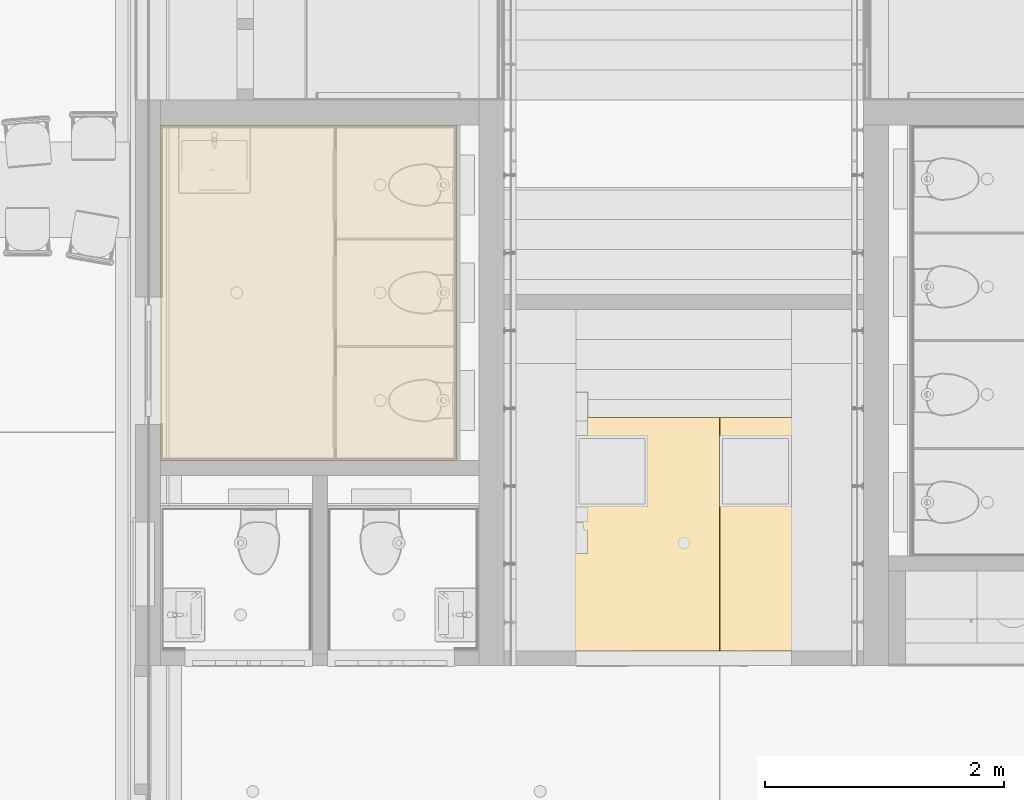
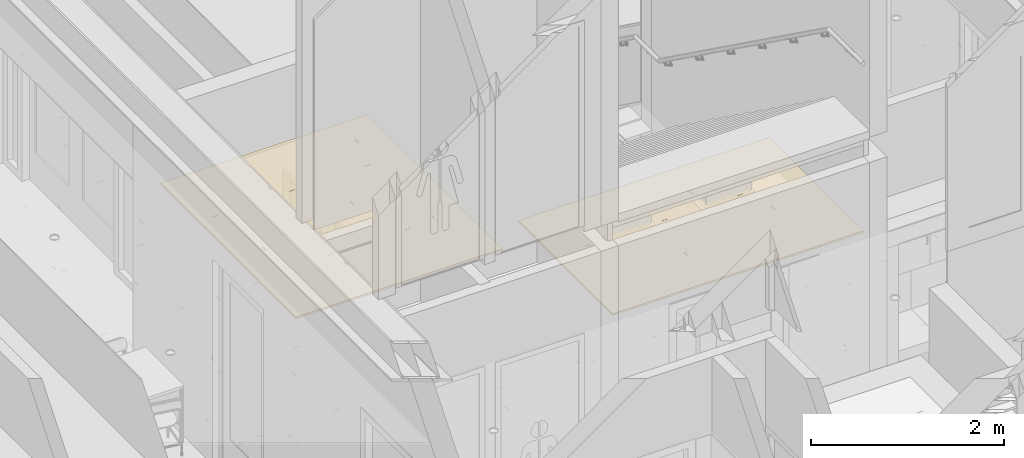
# One storey, part 170 of 347: 2 coverings.
"""IFC2X3 building model written with IfcOpenShell, lengths in millimetres."""

import ifcopenshell
import ifcopenshell.guid

model = None  # the IFC model being written
_history = None  # IfcOwnerHistory: only IFC2X3 demands one
_inside = {}  # id of a spatial element -> (the spatial element, [elements in it])
_under = {}  # id of a project, library or spatial element -> (it, [spatial elements below it])
_declared = {}  # id of a project -> (the project, [libraries it declares])
_typed = {}  # id of a type object -> (the type object, [elements of that type])
_made_of = {}  # id of a material, layer set ... -> (it, [elements and type objects made of it])


def new_model(schema):
    """Start an empty IFC model of exactly this schema.

    Asked for "IFC4X3", IfcOpenShell would pick the latest addendum, in which some entities
    have other attributes; the version numbers below select the first issue.
    IFC2X3 requires an IfcOwnerHistory on every rooted entity: one is made here for all.
    """
    global model, _history
    if schema == "IFC4X3":
        model = ifcopenshell.file(schema_version=(4, 3, 0, 0))
    else:
        model = ifcopenshell.file(schema=schema)
    _inside.clear()
    _under.clear()
    _declared.clear()
    _typed.clear()
    _made_of.clear()
    _history = None
    if model.schema == "IFC2X3":
        org = make("IfcOrganization", Name="unknown")
        user = make(
            "IfcPersonAndOrganization",
            ThePerson=make("IfcPerson", FamilyName="unknown"),
            TheOrganization=org,
        )
        app = make(
            "IfcApplication",
            ApplicationDeveloper=org,
            Version="unknown",
            ApplicationFullName="unknown",
            ApplicationIdentifier="unknown",
        )
        _history = make(
            "IfcOwnerHistory",
            OwningUser=user,
            OwningApplication=app,
            ChangeAction="ADDED",
            CreationDate=0,
        )
    return model


def make(cls, **values):
    """One entity of the class cls with the attributes given. An attribute that is None is left unset."""
    return model.create_entity(
        cls, **{name: value for name, value in values.items() if value is not None}
    )


def entity(cls, *values):
    """Any entity or typed value of the class cls, its attributes in the order of the schema. None: left unset."""
    e = model.create_entity(cls)
    for i, value in enumerate(values):
        if value is not None:
            e[i] = value
    return e


def rooted(cls, **values):
    """An entity with a GlobalId (a new one), such as an element, a storey or a relation."""
    return make(cls, GlobalId=ifcopenshell.guid.new(), OwnerHistory=_history, **values)


def si_unit(unit_type, name, prefix=None):
    """IfcSIUnit, for example si_unit("LENGTHUNIT", "METRE", prefix="MILLI")."""
    return make("IfcSIUnit", UnitType=unit_type, Prefix=prefix, Name=name)


def converted_unit(unit_type, name, factor, base, dimensions=None, offset=None):
    """IfcConversionBasedUnit, such as the inch: factor (a typed value) times the base unit."""
    return make(
        "IfcConversionBasedUnit"
        if offset is None
        else "IfcConversionBasedUnitWithOffset",
        ConversionOffset=offset,
        Dimensions=None
        if dimensions is None
        else entity("IfcDimensionalExponents", *dimensions),
        UnitType=unit_type,
        Name=name,
        ConversionFactor=make(
            "IfcMeasureWithUnit", ValueComponent=factor, UnitComponent=base
        ),
    )


def derived_unit(unit_type, elements):
    """IfcDerivedUnit: a product of units, each with its exponent."""
    return make(
        "IfcDerivedUnit",
        Elements=[
            make("IfcDerivedUnitElement", Unit=unit, Exponent=power)
            for unit, power in elements
        ],
        UnitType=unit_type,
    )


def money_unit(currency):
    """IfcMonetaryUnit."""
    return make("IfcMonetaryUnit", Currency=currency)


def assignment(units):
    """IfcUnitAssignment: the units of a project."""
    return None if units is None else make("IfcUnitAssignment", Units=units)


def point(xyz):
    """IfcCartesianPoint."""
    return None if xyz is None else make("IfcCartesianPoint", Coordinates=xyz)


def direction(xyz):
    """IfcDirection."""
    return None if xyz is None else make("IfcDirection", DirectionRatios=xyz)


def frame(location, z_axis=None, x_axis=None):
    """IfcAxis2Placement3D, a coordinate frame: its origin and axes. An axis left out is left unset."""
    return make(
        "IfcAxis2Placement3D",
        Location=point(location),
        Axis=direction(z_axis),
        RefDirection=direction(x_axis),
    )


def origin_with_axes():
    """The frame at (0, 0, 0) with the z axis (0, 0, 1) and the x axis (1, 0, 0) written out."""
    return frame((0.0, 0.0, 0.0), z_axis=(0.0, 0.0, 1.0), x_axis=(1.0, 0.0, 0.0))


def place(relative_to, where):
    """IfcLocalPlacement: puts the frame where relative to a parent placement (None: the world)."""
    return make(
        "IfcLocalPlacement", PlacementRelTo=relative_to, RelativePlacement=where
    )


def context(
    kind, dimensions, precision=None, world=None, true_north=None, identifier=None
):
    """IfcGeometricRepresentationContext, for example the 3D "Model" context."""
    return make(
        "IfcGeometricRepresentationContext",
        ContextIdentifier=identifier,
        ContextType=kind,
        CoordinateSpaceDimension=dimensions,
        Precision=precision,
        WorldCoordinateSystem=world,
        TrueNorth=true_north,
    )


def subcontext(parent, identifier, kind, view, scale=None):
    """IfcGeometricRepresentationSubContext, for example "Body" below "Model"."""
    return make(
        "IfcGeometricRepresentationSubContext",
        ContextIdentifier=identifier,
        ContextType=kind,
        ParentContext=parent,
        TargetScale=scale,
        TargetView=view,
    )


def project(units=None, contexts=None):
    """IfcProject with its units and contexts."""
    return rooted(
        "IfcProject",
        Name="project",
        RepresentationContexts=contexts,
        UnitsInContext=assignment(units),
    )


def spatial(cls, under=None, at=None, **own):
    """A site, building, storey or space (cls), placed at a placement, below another one or the project."""
    s = rooted(cls, ObjectPlacement=at, **own)
    if under is not None:
        _under.setdefault(under.id(), (under, []))[1].append(s)
    return s


def faces_of(points, faces, orient=None, outer=None):
    """IfcFace entities. A face is a list of loops; a loop is a list of indices into points, from 0.

    orient and outer hold one flag for each loop. By default every Orientation is true, the
    first loop of a face is its IfcFaceOuterBound and the others are IfcFaceBound.
    """
    made = []
    for i, loops in enumerate(faces):
        bounds = []
        for j, loop in enumerate(loops):
            is_outer = j == 0 if outer is None else outer[i][j]
            bounds.append(
                make(
                    "IfcFaceOuterBound" if is_outer else "IfcFaceBound",
                    Bound=make("IfcPolyLoop", Polygon=[points[k] for k in loop]),
                    Orientation=True if orient is None else orient[i][j],
                )
            )
        made.append(make("IfcFace", Bounds=bounds))
    return made


def faceted_brep(points, faces, orient=None, outer=None, voids=None):
    """IfcFacetedBrep: a solid bounded by flat faces; with voids (closed shells), ...WithVoids."""
    shared = [point(p) for p in points]
    hull = make("IfcClosedShell", CfsFaces=faces_of(shared, faces, orient, outer))
    if voids is None:
        return make("IfcFacetedBrep", Outer=hull)
    return make(
        "IfcFacetedBrepWithVoids",
        Outer=hull,
        Voids=[
            make(cls, CfsFaces=faces_of(shared, fs, o, b)) for cls, fs, o, b in voids
        ],
    )


def shape(context_of_items, identifier, shape_type, items):
    """IfcShapeRepresentation: the items that make up one representation, for example the "Body"."""
    return make(
        "IfcShapeRepresentation",
        ContextOfItems=context_of_items,
        RepresentationIdentifier=identifier,
        RepresentationType=shape_type,
        Items=items,
    )


def made_of(thing, what):
    """Note that an element or type object is made of a material, layer set ...; save() writes the relation."""
    if what is not None:
        _made_of.setdefault(what.id(), (what, []))[1].append(thing)
    return thing


def type_object(cls, material=None, **own):
    """A type object (cls), such as IfcWallType, which elements share."""
    return made_of(rooted(cls, **own), material)


def element(
    cls,
    number,
    at=None,
    inside=None,
    cuts=None,
    type_object=None,
    material=None,
    context=None,
    identifier="Body",
    shape_type=None,
    held_by="IfcProductDefinitionShape",
    body=None,
    shapes=None,
    **own,
):
    """One element of the class cls, such as IfcWall. Its Tag is "e" and its number.

    at: its placement. inside: the storey or other place that contains it. cuts: it is an
    opening in that element (IfcRelVoidsElement). A single representation is given by context,
    identifier, shape_type and body (its items); several are given by shapes. held_by: the class
    of the entity that holds the representations. save() writes the other relations.
    """
    e = rooted(cls, Tag="e%d" % number, ObjectPlacement=at, **own)
    if body is not None:
        shapes = [shape(context, identifier, shape_type, body)]
    if shapes is not None:
        e.Representation = make(held_by, Representations=shapes)
    if inside is not None:
        _inside.setdefault(inside.id(), (inside, []))[1].append(e)
    if cuts is not None:
        rooted(
            "IfcRelVoidsElement", RelatingBuildingElement=cuts, RelatedOpeningElement=e
        )
    if type_object is not None:
        _typed.setdefault(type_object.id(), (type_object, []))[1].append(e)
    return made_of(e, material)


def aggregate(whole, parts):
    """IfcRelAggregates: a whole, such as a stair, and the parts it consists of."""
    return rooted("IfcRelAggregates", RelatingObject=whole, RelatedObjects=parts)


def save(model, path):
    """Write the relations noted so far, then the file.

    IfcRelAggregates (storeys below a building ...), IfcRelContainedInSpatialStructure (elements
    in a storey), IfcRelDefinesByType, IfcRelAssociatesMaterial and IfcRelDeclares: one each for
    every whole, place, type object, material and project.
    """
    for whole, parts in _under.values():
        aggregate(whole, parts)
    for where, things in _inside.values():
        rooted(
            "IfcRelContainedInSpatialStructure",
            RelatedElements=things,
            RelatingStructure=where,
        )
    for kind, things in _typed.values():
        rooted("IfcRelDefinesByType", RelatedObjects=things, RelatingType=kind)
    for what, things in _made_of.values():
        rooted("IfcRelAssociatesMaterial", RelatedObjects=things, RelatingMaterial=what)
    for by, libraries in _declared.values():
        rooted("IfcRelDeclares", RelatingContext=by, RelatedDefinitions=libraries)
    model.write(path)


model = new_model("IFC2X3")

# Units and contexts
model_context = context("Model", 3, precision=0.01, world=origin_with_axes(), true_north=direction((0.0, 1.0)))
plan_context = context("Plan", 3, precision=0.01, world=origin_with_axes(), true_north=direction((0.0, 1.0)))
body_context = subcontext(model_context, "Body", "Model", "MODEL_VIEW")
ifc_project = project(units=[si_unit("LENGTHUNIT", "METRE", prefix="MILLI"), si_unit("AREAUNIT", "SQUARE_METRE"), si_unit("VOLUMEUNIT", "CUBIC_METRE"), converted_unit("PLANEANGLEUNIT", "DEGREE", entity("IfcPlaneAngleMeasure", 0.0174532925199), si_unit("PLANEANGLEUNIT", "RADIAN"), dimensions=[0, 0, 0, 0, 0, 0, 0]), money_unit("EUR"), converted_unit("TIMEUNIT", "Year", entity("IfcTimeMeasure", 31556926.0), si_unit("TIMEUNIT", "SECOND"), dimensions=[0, 0, 1, 0, 0, 0, 0]), si_unit("MASSUNIT", "GRAM", prefix="KILO"), si_unit("THERMODYNAMICTEMPERATUREUNIT", "DEGREE_CELSIUS"), si_unit("LUMINOUSINTENSITYUNIT", "LUMEN"), si_unit("ENERGYUNIT", "JOULE", prefix="MEGA"), derived_unit("THERMALCONDUCTANCEUNIT", [(si_unit("POWERUNIT", "WATT"), 1), (si_unit("LENGTHUNIT", "METRE"), -1), (si_unit("THERMODYNAMICTEMPERATUREUNIT", "KELVIN"), -1)]), derived_unit("SPECIFICHEATCAPACITYUNIT", [(si_unit("ENERGYUNIT", "JOULE"), 1), (si_unit("MASSUNIT", "GRAM", prefix="KILO"), -1), (si_unit("THERMODYNAMICTEMPERATUREUNIT", "KELVIN"), -1)]), derived_unit("MASSDENSITYUNIT", [(si_unit("MASSUNIT", "GRAM", prefix="KILO"), 1), (si_unit("VOLUMEUNIT", "CUBIC_METRE"), -1)])], contexts=[model_context, plan_context])

# Site, building, storey
site_placement = place(None, origin_with_axes())
site = spatial("IfcSite", under=ifc_project, at=site_placement, Name="Site", CompositionType="ELEMENT")
building_placement = place(site_placement, origin_with_axes())
building = spatial("IfcBuilding", under=site, at=building_placement, Name="Naam gebouw", CompositionType="ELEMENT")
storey_placement = place(building_placement, origin_with_axes())
storey = spatial("IfcBuildingStorey", under=building, at=storey_placement, Name="begane grond", CompositionType="ELEMENT", Elevation=0.0)

# Coverings
covering_type = type_object("IfcCoveringType", Name="Ceiling Editor INT_v2.01", PredefinedType="CEILING")
covering_1_placement = place(storey_placement, frame((38575.0, 30199.9999277, 2600.0), z_axis=(0.0, 0.0, 1.0), x_axis=(1.0, 0.0, 0.0)))
element("IfcCovering", 1, at=covering_1_placement, inside=storey, type_object=covering_type, Name="45 Plafondafwerkingen_77 garderobe", PredefinedType="CEILING", context=body_context, shape_type="Brep", body=[
    faceted_brep([(599.9, 0.100000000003, 20.0), (599.9, 0.100000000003, 0.0), (599.9, 1199.9, 0.0), (599.9, 1199.9, 20.0), (0.100000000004, 0.100000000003, 20.0), (0.100000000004, 0.100000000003, 0.0), (0.100000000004, 1199.9, 0.0), (0.100000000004, 1199.9, 20.0)], [[[0, 1, 2, 3]], [[4, 5, 1, 0]], [[2, 1, 5, 6]], [[3, 2, 6, 7]], [[4, 0, 3, 7]], [[7, 6, 5, 4]]]),
    faceted_brep([(599.9, 1950.0, 0.0), (599.9, 1950.0, 20.0), (599.9, 1200.1, 20.0), (599.9, 1200.1, 0.0), (0.100000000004, 1950.0, 0.0), (0.100000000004, 1950.0, 20.0), (0.100000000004, 1200.1, 20.0), (0.100000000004, 1200.1, 0.0)], [[[0, 1, 2, 3]], [[1, 0, 4, 5]], [[1, 5, 6, 2]], [[6, 7, 3, 2]], [[4, 0, 3, 7]], [[5, 4, 7, 6]]]),
    faceted_brep([(1199.9, 0.100000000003, 20.0), (1199.9, 0.100000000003, 0.0), (1199.9, 1199.9, 0.0), (1199.9, 1199.9, 20.0), (600.1, 0.100000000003, 20.0), (600.1, 0.100000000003, 0.0), (600.1, 1199.9, 0.0), (600.1, 1199.9, 20.0)], [[[0, 1, 2, 3]], [[4, 5, 1, 0]], [[2, 1, 5, 6]], [[3, 2, 6, 7]], [[4, 0, 3, 7]], [[7, 6, 5, 4]]]),
    faceted_brep([(1199.9, 1950.0, 0.0), (1199.9, 1950.0, 20.0), (1199.9, 1200.1, 20.0), (1199.9, 1200.1, 0.0), (750.0, 1950.0, 0.0), (750.0, 1950.0, 20.0), (600.1, 1950.0, 20.0), (600.1, 1200.1, 20.0), (600.1, 1200.1, 0.0), (600.1, 1950.0, 0.0)], [[[0, 1, 2, 3]], [[1, 0, 4, 5]], [[5, 6, 7, 2, 1]], [[7, 8, 3, 2]], [[4, 0, 3, 8, 9]], [[6, 5, 4, 9]], [[6, 9, 8, 7]]]),
    faceted_brep([(1799.9, 0.100000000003, 20.0), (1799.9, 0.100000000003, 0.0), (1799.9, 1199.9, 0.0), (1799.9, 1199.9, 20.0), (1200.1, 0.100000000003, 20.0), (1200.1, 0.100000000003, 0.0), (1200.1, 1199.9, 0.0), (1200.1, 1199.9, 20.0)], [[[0, 1, 2, 3]], [[4, 5, 1, 0]], [[2, 1, 5, 6]], [[3, 2, 6, 7]], [[4, 0, 3, 7]], [[7, 6, 5, 4]]]),
    faceted_brep([(1799.9, 1950.0, 0.0), (1799.9, 1950.0, 20.0), (1799.9, 1200.1, 20.0), (1799.9, 1200.1, 0.0), (1500.0, 1950.0, 0.0), (1500.0, 1950.0, 20.0), (1200.1, 1950.0, 20.0), (1200.1, 1200.1, 20.0), (1200.1, 1200.1, 0.0), (1200.1, 1950.0, 0.0)], [[[0, 1, 2, 3]], [[1, 0, 4, 5]], [[5, 6, 7, 2, 1]], [[7, 8, 3, 2]], [[4, 0, 3, 8, 9]], [[6, 5, 4, 9]], [[6, 9, 8, 7]]]),
    faceted_brep([(2399.9, 0.100000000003, 20.0), (2399.9, 0.100000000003, 0.0), (2399.9, 1199.9, 0.0), (2399.9, 1199.9, 20.0), (1800.1, 0.100000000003, 20.0), (1800.1, 0.100000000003, 0.0), (1800.1, 1199.9, 0.0), (1800.1, 1199.9, 20.0)], [[[0, 1, 2, 3]], [[4, 5, 1, 0]], [[2, 1, 5, 6]], [[3, 2, 6, 7]], [[4, 0, 3, 7]], [[7, 6, 5, 4]]]),
    faceted_brep([(2399.9, 1950.0, 0.0), (2399.9, 1950.0, 20.0), (2399.9, 1200.1, 20.0), (2399.9, 1200.1, 0.0), (2250.0, 1950.0, 0.0), (2250.0, 1950.0, 20.0), (1800.1, 1950.0, 20.0), (1800.1, 1200.1, 20.0), (1800.1, 1200.1, 0.0), (1800.1, 1950.0, 0.0)], [[[0, 1, 2, 3]], [[1, 0, 4, 5]], [[5, 6, 7, 2, 1]], [[7, 8, 3, 2]], [[4, 0, 3, 8, 9]], [[6, 5, 4, 9]], [[6, 9, 8, 7]]]),
    faceted_brep([(2999.9, 0.100000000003, 20.0), (2999.9, 0.100000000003, 0.0), (2999.9, 1199.9, 0.0), (2999.9, 1199.9, 20.0), (2400.1, 0.100000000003, 20.0), (2400.1, 0.100000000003, 0.0), (2400.1, 1199.9, 0.0), (2400.1, 1199.9, 20.0)], [[[0, 1, 2, 3]], [[4, 5, 1, 0]], [[2, 1, 5, 6]], [[3, 2, 6, 7]], [[4, 0, 3, 7]], [[7, 6, 5, 4]]]),
    faceted_brep([(2999.9, 1950.0, 0.0), (2999.9, 1950.0, 20.0), (2999.9, 1200.1, 20.0), (2999.9, 1200.1, 0.0), (2400.1, 1950.0, 0.0), (2400.1, 1950.0, 20.0), (2400.1, 1200.1, 20.0), (2400.1, 1200.1, 0.0)], [[[0, 1, 2, 3]], [[1, 0, 4, 5]], [[1, 5, 6, 2]], [[6, 7, 3, 2]], [[4, 0, 3, 7]], [[5, 4, 7, 6]]]),
    faceted_brep([(1187.5, 25.0, -5.0), (1187.5, 25.0, 0.0), (1187.5, 1187.5, 0.0), (1187.5, 1187.5, -5.0), (612.5, 25.0, -5.0), (612.5, 25.0, 0.0), (2987.5, 1950.0, 0.0), (2412.5, 1950.0, 0.0), (2387.5, 1950.0, 0.0), (1812.5, 1950.0, 0.0), (1787.5, 1950.0, 0.0), (1212.5, 1950.0, 0.0), (1187.5, 1950.0, 0.0), (612.5, 1950.0, 0.0), (587.5, 1950.0, 0.0), (12.5, 1950.0, 0.0), (0.0, 1950.0, 0.0), (0.0, 1462.5, 0.0), (0.0, 975.0, 0.0), (0.0, 487.5, 0.0), (0.0, 0.0, 0.0), (750.0, 0.0, 0.0), (1500.0, 0.0, 0.0), (2250.0, 0.0, 0.0), (3000.0, 0.0, 0.0), (3000.0, 487.5, 0.0), (3000.0, 975.0, 0.0), (3000.0, 1462.5, 0.0), (3000.0, 1950.0, 0.0), (25.0, 1187.5, 0.0), (587.5, 1187.5, 0.0), (587.5, 25.0, 0.0), (25.0, 25.0, 0.0), (612.5, 1187.5, 0.0), (1212.5, 25.0, 0.0), (1212.5, 1187.5, 0.0), (1787.5, 1187.5, 0.0), (1787.5, 25.0, 0.0), (1812.5, 25.0, 0.0), (1812.5, 1187.5, 0.0), (2387.5, 1187.5, 0.0), (2387.5, 25.0, 0.0), (2975.0, 25.0, 0.0), (2412.5, 25.0, 0.0), (2412.5, 1187.5, 0.0), (2975.0, 1187.5, 0.0), (587.5, 1925.0, 0.0), (587.5, 1212.5, 0.0), (25.0, 1212.5, 0.0), (25.0, 1925.0, 0.0), (1187.5, 1925.0, 0.0), (1187.5, 1212.5, 0.0), (612.5, 1212.5, 0.0), (612.5, 1925.0, 0.0), (1787.5, 1925.0, 0.0), (1787.5, 1212.5, 0.0), (1212.5, 1212.5, 0.0), (1212.5, 1925.0, 0.0), (2387.5, 1925.0, 0.0), (2387.5, 1212.5, 0.0), (1812.5, 1212.5, 0.0), (1812.5, 1925.0, 0.0), (2975.0, 1212.5, 0.0), (2412.5, 1212.5, 0.0), (2412.5, 1925.0, 0.0), (2975.0, 1925.0, 0.0), (612.5, 1187.5, -5.0), (2987.5, 1950.0, -5.0), (3000.0, 1950.0, -5.0), (3000.0, 1462.5, -5.0), (3000.0, 975.0, -5.0), (3000.0, 487.5, -5.0), (3000.0, 0.0, -5.0), (2250.0, 0.0, -5.0), (1500.0, 0.0, -5.0), (750.0, 0.0, -5.0), (0.0, 0.0, -5.0), (0.0, 487.5, -5.0), (0.0, 975.0, -5.0), (0.0, 1462.5, -5.0), (0.0, 1950.0, -5.0), (12.5, 1950.0, -5.0), (587.5, 1950.0, -5.0), (612.5, 1950.0, -5.0), (1187.5, 1950.0, -5.0), (1212.5, 1950.0, -5.0), (1787.5, 1950.0, -5.0), (1812.5, 1950.0, -5.0), (2387.5, 1950.0, -5.0), (2412.5, 1950.0, -5.0), (25.0, 25.0, -5.0), (587.5, 25.0, -5.0), (587.5, 1187.5, -5.0), (25.0, 1187.5, -5.0), (1787.5, 25.0, -5.0), (1787.5, 1187.5, -5.0), (1212.5, 1187.5, -5.0), (1212.5, 25.0, -5.0), (2387.5, 25.0, -5.0), (2387.5, 1187.5, -5.0), (1812.5, 1187.5, -5.0), (1812.5, 25.0, -5.0), (2975.0, 25.0, -5.0), (2975.0, 1187.5, -5.0), (2412.5, 1187.5, -5.0), (2412.5, 25.0, -5.0), (587.5, 1925.0, -5.0), (25.0, 1925.0, -5.0), (25.0, 1212.5, -5.0), (587.5, 1212.5, -5.0), (1187.5, 1925.0, -5.0), (612.5, 1925.0, -5.0), (612.5, 1212.5, -5.0), (1187.5, 1212.5, -5.0), (1787.5, 1925.0, -5.0), (1212.5, 1925.0, -5.0), (1212.5, 1212.5, -5.0), (1787.5, 1212.5, -5.0), (2387.5, 1925.0, -5.0), (1812.5, 1925.0, -5.0), (1812.5, 1212.5, -5.0), (2387.5, 1212.5, -5.0), (2975.0, 1925.0, -5.0), (2412.5, 1925.0, -5.0), (2412.5, 1212.5, -5.0), (2975.0, 1212.5, -5.0)], [[[0, 1, 2, 3]], [[1, 0, 4, 5]], [[6, 7, 8, 9, 10, 11, 12, 13, 14, 15, 16, 17, 18, 19, 20, 21, 22, 23, 24, 25, 26, 27, 28], [29, 30, 31, 32], [1, 5, 33, 2], [34, 35, 36, 37], [38, 39, 40, 41], [42, 43, 44, 45], [46, 47, 48, 49], [50, 51, 52, 53], [54, 55, 56, 57], [58, 59, 60, 61], [62, 63, 64, 65]], [[66, 3, 2, 33]], [[67, 68, 69, 70, 71, 72, 73, 74, 75, 76, 77, 78, 79, 80, 81, 82, 83, 84, 85, 86, 87, 88, 89], [90, 91, 92, 93], [0, 3, 66, 4], [94, 95, 96, 97], [98, 99, 100, 101], [102, 103, 104, 105], [106, 107, 108, 109], [110, 111, 112, 113], [114, 115, 116, 117], [118, 119, 120, 121], [122, 123, 124, 125]], [[5, 4, 66, 33]], [[6, 28, 68, 67, 89, 88, 87, 86, 85, 84, 83, 82, 81, 80, 16, 15, 14, 13, 12, 11, 10, 9, 8, 7]], [[80, 79, 17, 16]], [[79, 78, 18, 17]], [[78, 77, 19, 18]], [[77, 76, 20, 19]], [[75, 21, 20, 76]], [[74, 22, 21, 75]], [[73, 23, 22, 74]], [[72, 24, 23, 73]], [[72, 71, 25, 24]], [[71, 70, 26, 25]], [[70, 69, 27, 26]], [[69, 68, 28, 27]], [[29, 93, 92, 30]], [[91, 31, 30, 92]], [[90, 32, 31, 91]], [[93, 29, 32, 90]], [[34, 97, 96, 35]], [[96, 95, 36, 35]], [[94, 37, 36, 95]], [[34, 37, 94, 97]], [[38, 101, 100, 39]], [[100, 99, 40, 39]], [[98, 41, 40, 99]], [[38, 41, 98, 101]], [[42, 102, 105, 43]], [[43, 105, 104, 44]], [[103, 45, 44, 104]], [[102, 42, 45, 103]], [[46, 106, 109, 47]], [[108, 48, 47, 109]], [[107, 49, 48, 108]], [[106, 46, 49, 107]], [[50, 110, 113, 51]], [[52, 51, 113, 112]], [[111, 53, 52, 112]], [[110, 50, 53, 111]], [[54, 114, 117, 55]], [[56, 55, 117, 116]], [[115, 57, 56, 116]], [[114, 54, 57, 115]], [[58, 118, 121, 59]], [[60, 59, 121, 120]], [[119, 61, 60, 120]], [[118, 58, 61, 119]], [[62, 125, 124, 63]], [[123, 64, 63, 124]], [[122, 65, 64, 123]], [[62, 65, 122, 125]]]),
])
covering_2_placement = place(storey_placement, frame((35705.0, 31789.9999277, 2600.0), z_axis=(0.0, 0.0, 1.0), x_axis=(1.0, 0.0, 0.0)))
element("IfcCovering", 2, at=covering_2_placement, inside=storey, type_object=covering_type, Name="45 Plafondafwerkingen_77 garderobe", PredefinedType="CEILING", context=body_context, shape_type="Brep", body=[
    faceted_brep([(0.0, 0.0, 20.0), (334.9, 0.0, 20.0), (334.9, 799.9, 20.0), (0.0, 799.9, 20.0), (0.0, 700.000018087, 20.0), (0.0, 0.0, 0.0), (334.9, 0.0, 0.0), (334.9, 799.9, 0.0), (0.0, 799.9, 0.0), (0.0, 700.000018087, 0.0)], [[[0, 1, 2, 3, 4]], [[1, 0, 5, 6]], [[1, 6, 7, 2]], [[8, 3, 2, 7]], [[3, 8, 9, 4]], [[0, 4, 9, 5]], [[9, 8, 7, 6, 5]]]),
    faceted_brep([(0.0, 1999.9, 0.0), (0.0, 1999.9, 20.0), (334.9, 1999.9, 20.0), (334.9, 1999.9, 0.0), (0.0, 1400.00003617, 0.0), (0.0, 1400.00003617, 20.0), (0.0, 800.1, 20.0), (334.9, 800.1, 20.0), (334.9, 800.1, 0.0), (0.0, 800.1, 0.0)], [[[0, 1, 2, 3]], [[1, 0, 4, 5]], [[5, 6, 7, 2, 1]], [[7, 8, 3, 2]], [[4, 0, 3, 8, 9]], [[6, 5, 4, 9]], [[6, 9, 8, 7]]]),
    faceted_brep([(334.9, 2800.00007235, 0.0), (334.9, 2800.00007235, 20.0), (334.9, 2000.1, 20.0), (334.9, 2000.1, 0.0), (0.0, 2800.00007235, 0.0), (0.0, 2800.00007235, 20.0), (0.0, 2100.00005426, 20.0), (0.0, 2000.1, 20.0), (0.0, 2000.1, 0.0), (0.0, 2100.00005426, 0.0)], [[[0, 1, 2, 3]], [[1, 0, 4, 5]], [[6, 7, 2, 1, 5]], [[7, 8, 3, 2]], [[4, 0, 3, 8, 9]], [[6, 5, 4, 9]], [[7, 6, 9, 8]]]),
    faceted_brep([(617.5, 0.0, 20.0), (934.9, 0.0, 20.0), (934.9, 799.9, 20.0), (335.1, 799.9, 20.0), (335.1, 0.0, 20.0), (617.5, 0.0, 0.0), (934.9, 0.0, 0.0), (934.9, 799.9, 0.0), (335.1, 799.9, 0.0), (335.1, 0.0, 0.0)], [[[0, 1, 2, 3, 4]], [[1, 0, 5, 6]], [[1, 6, 7, 2]], [[2, 7, 8, 3]], [[9, 4, 3, 8]], [[0, 4, 9, 5]], [[5, 9, 8, 7, 6]]]),
    faceted_brep([(934.9, 800.1, 20.0), (934.9, 800.1, 0.0), (934.9, 1999.9, 0.0), (934.9, 1999.9, 20.0), (335.1, 800.1, 20.0), (335.1, 800.1, 0.0), (335.1, 1999.9, 0.0), (335.1, 1999.9, 20.0)], [[[0, 1, 2, 3]], [[4, 5, 1, 0]], [[2, 1, 5, 6]], [[3, 2, 6, 7]], [[4, 0, 3, 7]], [[7, 6, 5, 4]]]),
    faceted_brep([(934.9, 2800.00007235, 0.0), (934.9, 2800.00007235, 20.0), (934.9, 2000.1, 20.0), (934.9, 2000.1, 0.0), (617.5, 2800.00007235, 0.0), (617.5, 2800.00007235, 20.0), (335.1, 2800.00007235, 20.0), (335.1, 2000.1, 20.0), (335.1, 2000.1, 0.0), (335.1, 2800.00007235, 0.0)], [[[0, 1, 2, 3]], [[1, 0, 4, 5]], [[5, 6, 7, 2, 1]], [[7, 8, 3, 2]], [[4, 0, 3, 8, 9]], [[6, 5, 4, 9]], [[6, 9, 8, 7]]]),
    faceted_brep([(1235.0, 0.0, 20.0), (1534.9, 0.0, 20.0), (1534.9, 799.9, 20.0), (935.1, 799.9, 20.0), (935.1, 0.0, 20.0), (1235.0, 0.0, 0.0), (1534.9, 0.0, 0.0), (1534.9, 799.9, 0.0), (935.1, 799.9, 0.0), (935.1, 0.0, 0.0)], [[[0, 1, 2, 3, 4]], [[1, 0, 5, 6]], [[1, 6, 7, 2]], [[2, 7, 8, 3]], [[9, 4, 3, 8]], [[0, 4, 9, 5]], [[5, 9, 8, 7, 6]]]),
    faceted_brep([(1534.9, 800.1, 20.0), (1534.9, 800.1, 0.0), (1534.9, 1999.9, 0.0), (1534.9, 1999.9, 20.0), (935.1, 800.1, 20.0), (935.1, 800.1, 0.0), (935.1, 1999.9, 0.0), (935.1, 1999.9, 20.0)], [[[0, 1, 2, 3]], [[4, 5, 1, 0]], [[2, 1, 5, 6]], [[3, 2, 6, 7]], [[4, 0, 3, 7]], [[7, 6, 5, 4]]]),
    faceted_brep([(1534.9, 2800.00007235, 0.0), (1534.9, 2800.00007235, 20.0), (1534.9, 2000.1, 20.0), (1534.9, 2000.1, 0.0), (1235.0, 2800.00007235, 0.0), (1235.0, 2800.00007235, 20.0), (935.1, 2800.00007235, 20.0), (935.1, 2000.1, 20.0), (935.1, 2000.1, 0.0), (935.1, 2800.00007235, 0.0)], [[[0, 1, 2, 3]], [[1, 0, 4, 5]], [[5, 6, 7, 2, 1]], [[7, 8, 3, 2]], [[4, 0, 3, 8, 9]], [[6, 5, 4, 9]], [[6, 9, 8, 7]]]),
    faceted_brep([(1852.5, 0.0, 20.0), (2134.9, 0.0, 20.0), (2134.9, 799.9, 20.0), (1535.1, 799.9, 20.0), (1535.1, 0.0, 20.0), (1852.5, 0.0, 0.0), (2134.9, 0.0, 0.0), (2134.9, 799.9, 0.0), (1535.1, 799.9, 0.0), (1535.1, 0.0, 0.0)], [[[0, 1, 2, 3, 4]], [[1, 0, 5, 6]], [[1, 6, 7, 2]], [[2, 7, 8, 3]], [[9, 4, 3, 8]], [[0, 4, 9, 5]], [[5, 9, 8, 7, 6]]]),
    faceted_brep([(2134.9, 800.1, 20.0), (2134.9, 800.1, 0.0), (2134.9, 1999.9, 0.0), (2134.9, 1999.9, 20.0), (1535.1, 800.1, 20.0), (1535.1, 800.1, 0.0), (1535.1, 1999.9, 0.0), (1535.1, 1999.9, 20.0)], [[[0, 1, 2, 3]], [[4, 5, 1, 0]], [[2, 1, 5, 6]], [[3, 2, 6, 7]], [[4, 0, 3, 7]], [[7, 6, 5, 4]]]),
    faceted_brep([(2134.9, 2800.00007235, 0.0), (2134.9, 2800.00007235, 20.0), (2134.9, 2000.1, 20.0), (2134.9, 2000.1, 0.0), (1852.5, 2800.00007235, 0.0), (1852.5, 2800.00007235, 20.0), (1535.1, 2800.00007235, 20.0), (1535.1, 2000.1, 20.0), (1535.1, 2000.1, 0.0), (1535.1, 2800.00007235, 0.0)], [[[0, 1, 2, 3]], [[1, 0, 4, 5]], [[5, 6, 7, 2, 1]], [[7, 8, 3, 2]], [[4, 0, 3, 8, 9]], [[6, 5, 4, 9]], [[6, 9, 8, 7]]]),
    faceted_brep([(2470.0, 700.000018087, 20.0), (2470.0, 799.9, 20.0), (2135.1, 799.9, 20.0), (2135.1, 0.0, 20.0), (2470.0, 0.0, 20.0), (2470.0, 700.000018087, 0.0), (2470.0, 799.9, 0.0), (2135.1, 799.9, 0.0), (2135.1, 0.0, 0.0), (2470.0, 0.0, 0.0)], [[[0, 1, 2, 3, 4]], [[1, 0, 5, 6]], [[1, 6, 7, 2]], [[8, 3, 2, 7]], [[4, 3, 8, 9]], [[0, 4, 9, 5]], [[9, 8, 7, 6, 5]]]),
    faceted_brep([(2470.0, 1400.00003617, 20.0), (2470.0, 1999.9, 20.0), (2135.1, 1999.9, 20.0), (2135.1, 800.1, 20.0), (2470.0, 800.1, 20.0), (2470.0, 1400.00003617, 0.0), (2470.0, 1999.9, 0.0), (2135.1, 1999.9, 0.0), (2135.1, 800.1, 0.0), (2470.0, 800.1, 0.0)], [[[0, 1, 2, 3, 4]], [[1, 0, 5, 6]], [[1, 6, 7, 2]], [[2, 7, 8, 3]], [[9, 4, 3, 8]], [[0, 4, 9, 5]], [[5, 9, 8, 7, 6]]]),
    faceted_brep([(2470.0, 2100.00005426, 20.0), (2470.0, 2800.00007235, 20.0), (2135.1, 2800.00007235, 20.0), (2135.1, 2000.1, 20.0), (2470.0, 2000.1, 20.0), (2470.0, 2100.00005426, 0.0), (2470.0, 2800.00007235, 0.0), (2135.1, 2800.00007235, 0.0), (2135.1, 2000.1, 0.0), (2470.0, 2000.1, 0.0)], [[[0, 1, 2, 3, 4]], [[1, 0, 5, 6]], [[2, 1, 6, 7]], [[2, 7, 8, 3]], [[9, 4, 3, 8]], [[0, 4, 9, 5]], [[5, 9, 8, 7, 6]]]),
    faceted_brep([(2470.0, 0.0, 0.0), (2470.0, 0.0, -5.0), (2470.0, 787.5, -5.0), (2470.0, 812.5, -5.0), (2470.0, 1987.5, -5.0), (2470.0, 2012.5, -5.0), (2470.0, 2800.00007235, -5.0), (2470.0, 2800.00007235, 0.0), (2470.0, 2012.5, 0.0), (2470.0, 1987.5, 0.0), (2470.0, 812.5, 0.0), (2470.0, 787.5, 0.0), (947.5, 0.0, -5.0), (1522.5, 0.0, -5.0), (1547.5, 0.0, -5.0), (2122.5, 0.0, -5.0), (2147.5, 0.0, -5.0), (2147.5, 0.0, 0.0), (2122.5, 0.0, 0.0), (1547.5, 0.0, 0.0), (1522.5, 0.0, 0.0), (947.5, 0.0, 0.0), (922.5, 0.0, 0.0), (347.5, 0.0, 0.0), (322.5, 0.0, 0.0), (0.0, 0.0, 0.0), (0.0, 0.0, -5.0), (322.5, 0.0, -5.0), (347.5, 0.0, -5.0), (922.5, 0.0, -5.0), (0.0, 787.5, -5.0), (0.0, 812.5, -5.0), (0.0, 1987.5, -5.0), (0.0, 2012.5, -5.0), (0.0, 2800.00007235, -5.0), (322.5, 2800.00007235, -5.0), (347.5, 2800.00007235, -5.0), (922.5, 2800.00007235, -5.0), (947.5, 2800.00007235, -5.0), (1522.5, 2800.00007235, -5.0), (1547.5, 2800.00007235, -5.0), (2122.5, 2800.00007235, -5.0), (2147.5, 2800.00007235, -5.0), (922.5, 812.5, -5.0), (922.5, 1987.5, -5.0), (347.5, 1987.5, -5.0), (347.5, 812.5, -5.0), (1522.5, 812.5, -5.0), (1522.5, 1987.5, -5.0), (947.5, 1987.5, -5.0), (947.5, 812.5, -5.0), (2122.5, 812.5, -5.0), (2122.5, 1987.5, -5.0), (1547.5, 1987.5, -5.0), (1547.5, 812.5, -5.0), (25.0, 787.5, -5.0), (25.0, 25.0, -5.0), (322.5, 25.0, -5.0), (322.5, 787.5, -5.0), (25.0, 1987.5, -5.0), (25.0, 812.5, -5.0), (322.5, 812.5, -5.0), (322.5, 1987.5, -5.0), (322.5, 2775.00007235, -5.0), (25.0, 2775.00007235, -5.0), (25.0, 2012.5, -5.0), (322.5, 2012.5, -5.0), (922.5, 2775.00007235, -5.0), (347.5, 2775.00007235, -5.0), (347.5, 2012.5, -5.0), (922.5, 2012.5, -5.0), (1522.5, 2775.00007235, -5.0), (947.5, 2775.00007235, -5.0), (947.5, 2012.5, -5.0), (1522.5, 2012.5, -5.0), (2122.5, 2775.00007235, -5.0), (1547.5, 2775.00007235, -5.0), (1547.5, 2012.5, -5.0), (2122.5, 2012.5, -5.0), (2445.0, 2775.00007235, -5.0), (2147.5, 2775.00007235, -5.0), (2147.5, 2012.5, -5.0), (2445.0, 2012.5, -5.0), (2445.0, 1987.5, -5.0), (2147.5, 1987.5, -5.0), (2147.5, 812.5, -5.0), (2445.0, 812.5, -5.0), (2445.0, 25.0, -5.0), (2445.0, 787.5, -5.0), (2147.5, 787.5, -5.0), (2147.5, 25.0, -5.0), (2122.5, 25.0, -5.0), (2122.5, 787.5, -5.0), (1547.5, 787.5, -5.0), (1547.5, 25.0, -5.0), (922.5, 25.0, -5.0), (922.5, 787.5, -5.0), (347.5, 787.5, -5.0), (347.5, 25.0, -5.0), (1522.5, 25.0, -5.0), (1522.5, 787.5, -5.0), (947.5, 787.5, -5.0), (947.5, 25.0, -5.0), (0.0, 2800.00007235, 0.0), (322.5, 2800.00007235, 0.0), (347.5, 2800.00007235, 0.0), (922.5, 2800.00007235, 0.0), (947.5, 2800.00007235, 0.0), (1522.5, 2800.00007235, 0.0), (1547.5, 2800.00007235, 0.0), (2122.5, 2800.00007235, 0.0), (2147.5, 2800.00007235, 0.0), (0.0, 2012.5, 0.0), (0.0, 1987.5, 0.0), (0.0, 812.5, 0.0), (0.0, 787.5, 0.0), (347.5, 1987.5, 0.0), (922.5, 1987.5, 0.0), (922.5, 812.5, 0.0), (347.5, 812.5, 0.0), (947.5, 1987.5, 0.0), (1522.5, 1987.5, 0.0), (1522.5, 812.5, 0.0), (947.5, 812.5, 0.0), (1547.5, 1987.5, 0.0), (2122.5, 1987.5, 0.0), (2122.5, 812.5, 0.0), (1547.5, 812.5, 0.0), (25.0, 787.5, 0.0), (322.5, 787.5, 0.0), (322.5, 25.0, 0.0), (25.0, 25.0, 0.0), (25.0, 1987.5, 0.0), (322.5, 1987.5, 0.0), (322.5, 812.5, 0.0), (25.0, 812.5, 0.0), (322.5, 2775.00007235, 0.0), (322.5, 2012.5, 0.0), (25.0, 2012.5, 0.0), (25.0, 2775.00007235, 0.0), (922.5, 2775.00007235, 0.0), (922.5, 2012.5, 0.0), (347.5, 2012.5, 0.0), (347.5, 2775.00007235, 0.0), (1522.5, 2775.00007235, 0.0), (1522.5, 2012.5, 0.0), (947.5, 2012.5, 0.0), (947.5, 2775.00007235, 0.0), (2122.5, 2775.00007235, 0.0), (2122.5, 2012.5, 0.0), (1547.5, 2012.5, 0.0), (1547.5, 2775.00007235, 0.0), (2445.0, 2012.5, 0.0), (2147.5, 2012.5, 0.0), (2147.5, 2775.00007235, 0.0), (2445.0, 2775.00007235, 0.0), (2445.0, 812.5, 0.0), (2147.5, 812.5, 0.0), (2147.5, 1987.5, 0.0), (2445.0, 1987.5, 0.0), (2445.0, 25.0, 0.0), (2147.5, 25.0, 0.0), (2147.5, 787.5, 0.0), (2445.0, 787.5, 0.0), (1547.5, 25.0, 0.0), (1547.5, 787.5, 0.0), (2122.5, 787.5, 0.0), (2122.5, 25.0, 0.0), (922.5, 25.0, 0.0), (347.5, 25.0, 0.0), (347.5, 787.5, 0.0), (922.5, 787.5, 0.0), (947.5, 25.0, 0.0), (947.5, 787.5, 0.0), (1522.5, 787.5, 0.0), (1522.5, 25.0, 0.0)], [[[0, 1, 2, 3, 4, 5, 6, 7, 8, 9, 10, 11]], [[12, 13, 14, 15, 16, 1, 0, 17, 18, 19, 20, 21, 22, 23, 24, 25, 26, 27, 28, 29]], [[12, 29, 28, 27, 26, 30, 31, 32, 33, 34, 35, 36, 37, 38, 39, 40, 41, 42, 6, 5, 4, 3, 2, 1, 16, 15, 14, 13], [43, 44, 45, 46], [47, 48, 49, 50], [51, 52, 53, 54], [55, 56, 57, 58], [59, 60, 61, 62], [63, 64, 65, 66], [67, 68, 69, 70], [71, 72, 73, 74], [75, 76, 77, 78], [79, 80, 81, 82], [83, 84, 85, 86], [87, 88, 89, 90], [91, 92, 93, 94], [95, 96, 97, 98], [99, 100, 101, 102]], [[7, 6, 42, 41, 40, 39, 38, 37, 36, 35, 34, 103, 104, 105, 106, 107, 108, 109, 110, 111]], [[20, 19, 18, 17, 0, 11, 10, 9, 8, 7, 111, 110, 109, 108, 107, 106, 105, 104, 103, 112, 113, 114, 115, 25, 24, 23, 22, 21], [116, 117, 118, 119], [120, 121, 122, 123], [124, 125, 126, 127], [128, 129, 130, 131], [132, 133, 134, 135], [136, 137, 138, 139], [140, 141, 142, 143], [144, 145, 146, 147], [148, 149, 150, 151], [152, 153, 154, 155], [156, 157, 158, 159], [160, 161, 162, 163], [164, 165, 166, 167], [168, 169, 170, 171], [172, 173, 174, 175]], [[103, 34, 33, 32, 31, 30, 26, 25, 115, 114, 113, 112]], [[118, 117, 44, 43]], [[45, 44, 117, 116]], [[46, 45, 116, 119]], [[119, 118, 43, 46]], [[122, 121, 48, 47]], [[49, 48, 121, 120]], [[50, 49, 120, 123]], [[123, 122, 47, 50]], [[126, 125, 52, 51]], [[53, 52, 125, 124]], [[54, 53, 124, 127]], [[127, 126, 51, 54]], [[55, 128, 131, 56]], [[56, 131, 130, 57]], [[57, 130, 129, 58]], [[128, 55, 58, 129]], [[59, 132, 135, 60]], [[60, 135, 134, 61]], [[134, 133, 62, 61]], [[132, 59, 62, 133]], [[63, 136, 139, 64]], [[64, 139, 138, 65]], [[65, 138, 137, 66]], [[136, 63, 66, 137]], [[67, 140, 143, 68]], [[68, 143, 142, 69]], [[142, 141, 70, 69]], [[140, 67, 70, 141]], [[71, 144, 147, 72]], [[72, 147, 146, 73]], [[146, 145, 74, 73]], [[144, 71, 74, 145]], [[75, 148, 151, 76]], [[76, 151, 150, 77]], [[150, 149, 78, 77]], [[148, 75, 78, 149]], [[79, 155, 154, 80]], [[80, 154, 153, 81]], [[152, 82, 81, 153]], [[152, 155, 79, 82]], [[83, 159, 158, 84]], [[85, 84, 158, 157]], [[156, 86, 85, 157]], [[156, 159, 83, 86]], [[87, 160, 163, 88]], [[88, 163, 162, 89]], [[161, 90, 89, 162]], [[160, 87, 90, 161]], [[91, 167, 166, 92]], [[93, 92, 166, 165]], [[164, 94, 93, 165]], [[164, 167, 91, 94]], [[95, 168, 171, 96]], [[97, 96, 171, 170]], [[169, 98, 97, 170]], [[168, 95, 98, 169]], [[99, 175, 174, 100]], [[101, 100, 174, 173]], [[172, 102, 101, 173]], [[172, 175, 99, 102]]]),
])

save(model, "model.ifc")
